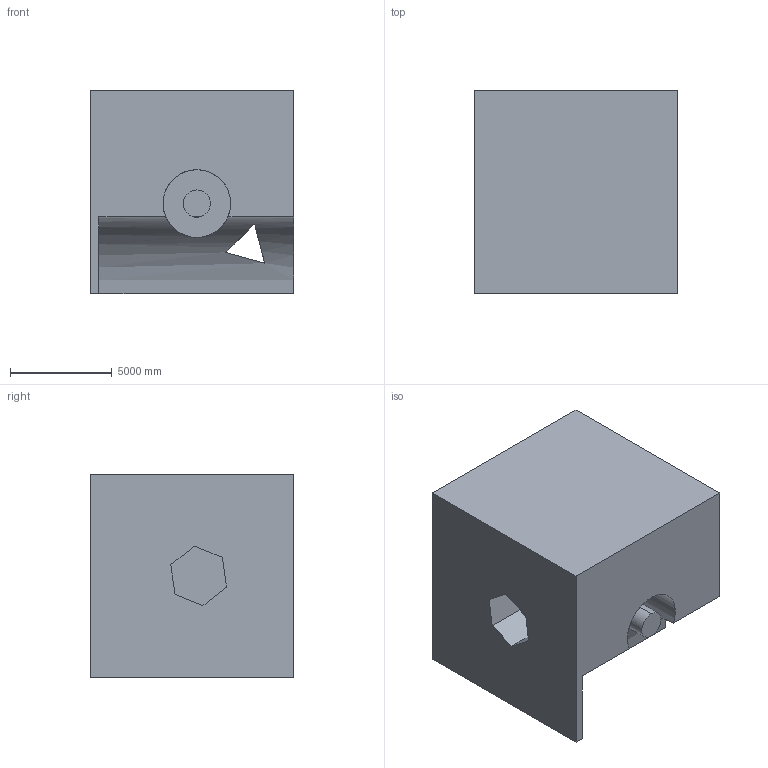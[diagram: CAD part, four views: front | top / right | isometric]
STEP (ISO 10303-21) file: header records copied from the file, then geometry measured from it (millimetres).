
FILE_DESCRIPTION (( 'STEP AP203' ), '1' );
FILE_NAME ('36.STEP', '2022-09-02T13:46:26', ( 'user' ), ( '' ), 'SwSTEP 2.0', 'SolidWorks 2021', '' );
FILE_SCHEMA (( 'CONFIG_CONTROL_DESIGN' ));
Length unit declared in the file: centimetre
Products named in the file (1): 36
Bounding box: 10000 x 10000 x 10000 mm (x, y, z)
Volume: 821138929608.8 mm3; surface area: 732104965.2 mm2
Topology: 1 solids, 1 shells, 25 faces, 63 edges, 42 vertices
Faces by surface type: plane 19, cylinder 6
Entity records: 1117 total; most frequent: CARTESIAN_POINT 437, ORIENTED_EDGE 126, DIRECTION 118, EDGE_CURVE 63, VECTOR 46, LINE 46, VERTEX_POINT 42, AXIS2_PLACEMENT_3D 36
